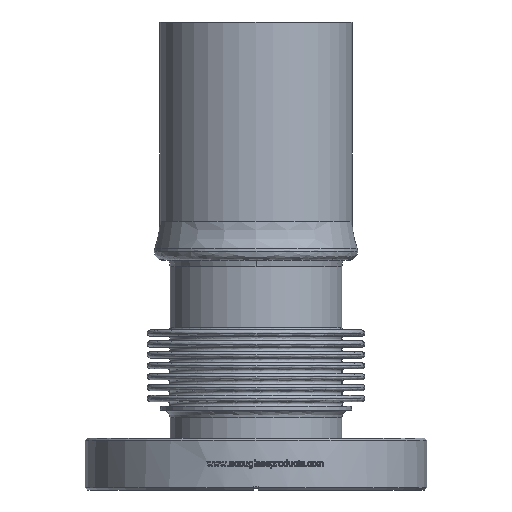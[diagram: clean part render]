
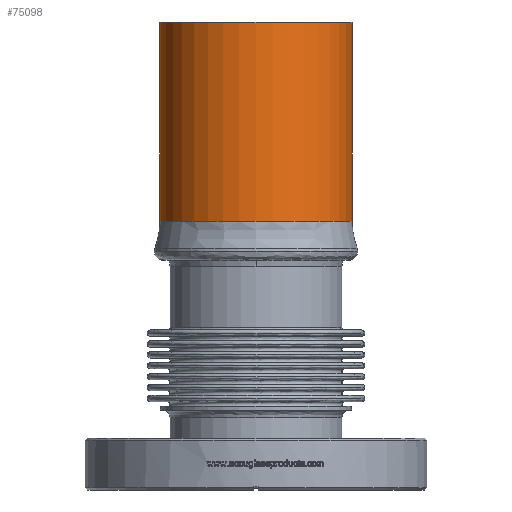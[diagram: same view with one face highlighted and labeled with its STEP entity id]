
A CAD part, front view. The second image highlights one B-rep face of the part: STEP entity #75098.
In plain terms, the highlighted cylindrical face has radius 32 mm (diameter 64 mm), a partial arc.
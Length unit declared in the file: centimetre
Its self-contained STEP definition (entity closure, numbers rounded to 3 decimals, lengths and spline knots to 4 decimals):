
#4507 = EDGE_LOOP ( 'NONE', ( #63386, #62904, #11889, #63304 ) ) ;
#10041 = CIRCLE ( 'NONE', #25124, 3.2 ) ;
#10270 = CIRCLE ( 'NONE', #10679, 3.2 ) ;
#10470 = LINE ( 'NONE', #60323, #10472 ) ;
#10472 = VECTOR ( 'NONE', #60322, 100. ) ;
#10481 = LINE ( 'NONE', #15804, #10483 ) ;
#10483 = VECTOR ( 'NONE', #15803, 100. ) ;
#10679 = AXIS2_PLACEMENT_3D ( 'NONE', #47838, #47839, #47840 ) ;
#11889 = ORIENTED_EDGE ( 'NONE', *, *, #24941, .T. ) ;
#14917 = CARTESIAN_POINT ( 'NONE',  ( 0., 0., 8.9382 ) ) ;
#14918 = DIRECTION ( 'NONE',  ( 0., 0., -1. ) ) ;
#14919 = DIRECTION ( 'NONE',  ( 1., 0., 0. ) ) ;
#15077 = AXIS2_PLACEMENT_3D ( 'NONE', #71927, #71911, #71910 ) ;
#15803 = DIRECTION ( 'NONE',  ( 0., 0., 1. ) ) ;
#15804 = CARTESIAN_POINT ( 'NONE',  ( 3.2, 0., 9.3461 ) ) ;
#16542 = EDGE_CURVE ( 'NONE', #27394, #27707, #10041, .T. ) ;
#16992 = EDGE_CURVE ( 'NONE', #63653, #26374, #10270, .T. ) ;
#24915 = EDGE_CURVE ( 'NONE', #27707, #26374, #10470, .T. ) ;
#24941 = EDGE_CURVE ( 'NONE', #27394, #63653, #10481, .T. ) ;
#25124 = AXIS2_PLACEMENT_3D ( 'NONE', #14917, #14918, #14919 ) ;
#26374 = VERTEX_POINT ( 'NONE', #28810 ) ;
#27394 = VERTEX_POINT ( 'NONE', #29320 ) ;
#27707 = VERTEX_POINT ( 'NONE', #29463 ) ;
#28810 = CARTESIAN_POINT ( 'NONE',  ( -3.2, 0., 15.5321 ) ) ;
#29320 = CARTESIAN_POINT ( 'NONE',  ( 3.2, 0., 8.9382 ) ) ;
#29463 = CARTESIAN_POINT ( 'NONE',  ( -3.2, 0., 8.9382 ) ) ;
#35390 = FACE_OUTER_BOUND ( 'NONE', #4507, .T. ) ;
#35391 = CYLINDRICAL_SURFACE ( 'NONE', #15077, 3.2 ) ;
#47838 = CARTESIAN_POINT ( 'NONE',  ( 0., 0., 15.5321 ) ) ;
#47839 = DIRECTION ( 'NONE',  ( 0., 0., -1. ) ) ;
#47840 = DIRECTION ( 'NONE',  ( 1., 0., 0. ) ) ;
#60322 = DIRECTION ( 'NONE',  ( 0., 0., 1. ) ) ;
#60323 = CARTESIAN_POINT ( 'NONE',  ( -3.2, 0., 9.3461 ) ) ;
#62904 = ORIENTED_EDGE ( 'NONE', *, *, #16542, .F. ) ;
#63304 = ORIENTED_EDGE ( 'NONE', *, *, #16992, .T. ) ;
#63386 = ORIENTED_EDGE ( 'NONE', *, *, #24915, .F. ) ;
#63653 = VERTEX_POINT ( 'NONE', #67364 ) ;
#67364 = CARTESIAN_POINT ( 'NONE',  ( 3.2, 0., 15.5321 ) ) ;
#71910 = DIRECTION ( 'NONE',  ( 1., 0., 0. ) ) ;
#71911 = DIRECTION ( 'NONE',  ( 0., 0., 1. ) ) ;
#71927 = CARTESIAN_POINT ( 'NONE',  ( 0., 0., 9.3461 ) ) ;
#75098 = ADVANCED_FACE ( 'NONE', ( #35390 ), #35391, .T. ) ;
